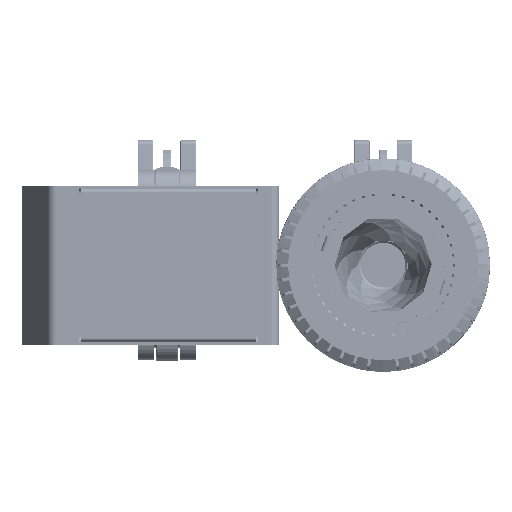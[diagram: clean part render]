
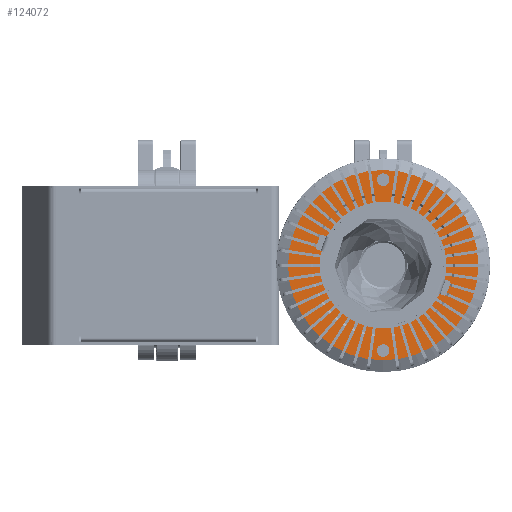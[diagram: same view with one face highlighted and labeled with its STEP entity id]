
A CAD part, front view. The second image highlights one B-rep face of the part: STEP entity #124072.
In plain terms, the highlighted planar face has unit normal (0, -1, 0).
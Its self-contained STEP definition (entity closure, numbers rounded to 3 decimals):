
#1374 = EDGE_CURVE ( 'NONE', #58688, #137906, #205114, .T. ) ;
#1507 = CIRCLE ( 'NONE', #140381, 3.25 ) ;
#1928 = AXIS2_PLACEMENT_3D ( 'NONE', #28497, #114393, #99090 ) ;
#3060 = ORIENTED_EDGE ( 'NONE', *, *, #198808, .F. ) ;
#3388 = CIRCLE ( 'NONE', #110991, 1.6 ) ;
#4268 = ORIENTED_EDGE ( 'NONE', *, *, #192367, .T. ) ;
#6264 = CARTESIAN_POINT ( 'NONE',  ( -49., 0., 0. ) ) ;
#7553 = EDGE_CURVE ( 'NONE', #112045, #144114, #195084, .T. ) ;
#10881 = CIRCLE ( 'NONE', #136027, 29. ) ;
#11144 = DIRECTION ( 'NONE',  ( 0., -1., 0. ) ) ;
#13386 = DIRECTION ( 'NONE',  ( 0., 1., 0. ) ) ;
#27253 = DIRECTION ( 'NONE',  ( 0., 1., 0. ) ) ;
#28370 = CARTESIAN_POINT ( 'NONE',  ( 29., 0., 0. ) ) ;
#28497 = CARTESIAN_POINT ( 'NONE',  ( -11.287, 0., -31.01 ) ) ;
#31287 = AXIS2_PLACEMENT_3D ( 'NONE', #94960, #13386, #146171 ) ;
#31659 = FACE_BOUND ( 'NONE', #98663, .T. ) ;
#35386 = EDGE_LOOP ( 'NONE', ( #3060, #152562 ) ) ;
#35486 = ORIENTED_EDGE ( 'NONE', *, *, #178430, .T. ) ;
#35947 = EDGE_CURVE ( 'NONE', #47336, #144993, #134571, .T. ) ;
#42824 = VERTEX_POINT ( 'NONE', #6264 ) ;
#43699 = CARTESIAN_POINT ( 'NONE',  ( 44., 0., 0. ) ) ;
#45076 = DIRECTION ( 'NONE',  ( 0., -1., 0. ) ) ;
#47336 = VERTEX_POINT ( 'NONE', #28370 ) ;
#48033 = FACE_BOUND ( 'NONE', #83451, .T. ) ;
#49243 = EDGE_CURVE ( 'NONE', #137906, #58688, #1507, .T. ) ;
#49771 = EDGE_LOOP ( 'NONE', ( #122647, #4268 ) ) ;
#55558 = DIRECTION ( 'NONE',  ( 0., -1., 0. ) ) ;
#56614 = DIRECTION ( 'NONE',  ( 1., 0., 0. ) ) ;
#56973 = ORIENTED_EDGE ( 'NONE', *, *, #71872, .F. ) ;
#58688 = VERTEX_POINT ( 'NONE', #64707 ) ;
#63595 = DIRECTION ( 'NONE',  ( 0., 0., 1. ) ) ;
#64707 = CARTESIAN_POINT ( 'NONE',  ( 44., 0., -3.25 ) ) ;
#67167 = CARTESIAN_POINT ( 'NONE',  ( 0., 0., 0. ) ) ;
#71872 = EDGE_CURVE ( 'NONE', #144993, #47336, #10881, .T. ) ;
#71943 = AXIS2_PLACEMENT_3D ( 'NONE', #128856, #210457, #63595 ) ;
#75601 = DIRECTION ( 'NONE',  ( 0., -1., 0. ) ) ;
#76611 = DIRECTION ( 'NONE',  ( 1., 0., 0. ) ) ;
#77548 = CARTESIAN_POINT ( 'NONE',  ( 0., 0., 0. ) ) ;
#78615 = DIRECTION ( 'NONE',  ( 0., -1., 0. ) ) ;
#82471 = CIRCLE ( 'NONE', #92839, 49. ) ;
#82756 = PLANE ( 'NONE',  #171048 ) ;
#83451 = EDGE_LOOP ( 'NONE', ( #199721, #162649 ) ) ;
#84332 = CARTESIAN_POINT ( 'NONE',  ( -9.687, 0., -31.01 ) ) ;
#87362 = AXIS2_PLACEMENT_3D ( 'NONE', #183785, #138002, #203270 ) ;
#91277 = CARTESIAN_POINT ( 'NONE',  ( -44., 0., 3.25 ) ) ;
#91689 = VERTEX_POINT ( 'NONE', #175220 ) ;
#92839 = AXIS2_PLACEMENT_3D ( 'NONE', #146911, #168291, #163199 ) ;
#94960 = CARTESIAN_POINT ( 'NONE',  ( 44., 0., 0. ) ) ;
#97943 = FACE_BOUND ( 'NONE', #49771, .T. ) ;
#98663 = EDGE_LOOP ( 'NONE', ( #56973, #145388 ) ) ;
#99090 = DIRECTION ( 'NONE',  ( 1., 0., 0. ) ) ;
#110991 = AXIS2_PLACEMENT_3D ( 'NONE', #210293, #11144, #175525 ) ;
#111336 = VERTEX_POINT ( 'NONE', #91277 ) ;
#112045 = VERTEX_POINT ( 'NONE', #207246 ) ;
#114309 = FACE_BOUND ( 'NONE', #119997, .T. ) ;
#114393 = DIRECTION ( 'NONE',  ( 0., -1., 0. ) ) ;
#119997 = EDGE_LOOP ( 'NONE', ( #168196, #139209 ) ) ;
#120343 = DIRECTION ( 'NONE',  ( 1., 0., 0. ) ) ;
#121303 = CARTESIAN_POINT ( 'NONE',  ( -29., 0., 0. ) ) ;
#122647 = ORIENTED_EDGE ( 'NONE', *, *, #150229, .T. ) ;
#124072 = ADVANCED_FACE ( 'NONE', ( #197031, #48033, #114309, #180756, #31659, #97943 ), #82756, .T. ) ;
#125642 = DIRECTION ( 'NONE',  ( 1., 0., 0. ) ) ;
#128856 = CARTESIAN_POINT ( 'NONE',  ( -44., 0., 0. ) ) ;
#130161 = EDGE_LOOP ( 'NONE', ( #35486, #144736 ) ) ;
#130964 = AXIS2_PLACEMENT_3D ( 'NONE', #77548, #78615, #144977 ) ;
#132476 = EDGE_CURVE ( 'NONE', #149376, #42824, #82471, .T. ) ;
#134571 = CIRCLE ( 'NONE', #130964, 29. ) ;
#136027 = AXIS2_PLACEMENT_3D ( 'NONE', #158204, #45076, #76611 ) ;
#137906 = VERTEX_POINT ( 'NONE', #188727 ) ;
#138002 = DIRECTION ( 'NONE',  ( 0., -1., 0. ) ) ;
#139209 = ORIENTED_EDGE ( 'NONE', *, *, #49243, .T. ) ;
#140381 = AXIS2_PLACEMENT_3D ( 'NONE', #43699, #27253, #161054 ) ;
#144114 = VERTEX_POINT ( 'NONE', #84332 ) ;
#144736 = ORIENTED_EDGE ( 'NONE', *, *, #132476, .T. ) ;
#144947 = CARTESIAN_POINT ( 'NONE',  ( 9.687, 0., 31.01 ) ) ;
#144977 = DIRECTION ( 'NONE',  ( 1., 0., 0. ) ) ;
#144993 = VERTEX_POINT ( 'NONE', #121303 ) ;
#145388 = ORIENTED_EDGE ( 'NONE', *, *, #35947, .F. ) ;
#146171 = DIRECTION ( 'NONE',  ( 0., 0., 1. ) ) ;
#146911 = CARTESIAN_POINT ( 'NONE',  ( 0., 0., 0. ) ) ;
#148244 = AXIS2_PLACEMENT_3D ( 'NONE', #67167, #200926, #120343 ) ;
#149376 = VERTEX_POINT ( 'NONE', #187745 ) ;
#150229 = EDGE_CURVE ( 'NONE', #91689, #111336, #172879, .T. ) ;
#150275 = AXIS2_PLACEMENT_3D ( 'NONE', #157175, #75601, #125642 ) ;
#152562 = ORIENTED_EDGE ( 'NONE', *, *, #162981, .F. ) ;
#157175 = CARTESIAN_POINT ( 'NONE',  ( 11.287, 0., 31.01 ) ) ;
#158204 = CARTESIAN_POINT ( 'NONE',  ( 0., 0., 0. ) ) ;
#161054 = DIRECTION ( 'NONE',  ( 0., 0., 1. ) ) ;
#162649 = ORIENTED_EDGE ( 'NONE', *, *, #213360, .F. ) ;
#162981 = EDGE_CURVE ( 'NONE', #177052, #167964, #3388, .T. ) ;
#163199 = DIRECTION ( 'NONE',  ( 1., 0., 0. ) ) ;
#165668 = CIRCLE ( 'NONE', #71943, 3.25 ) ;
#167964 = VERTEX_POINT ( 'NONE', #144947 ) ;
#168196 = ORIENTED_EDGE ( 'NONE', *, *, #1374, .T. ) ;
#168291 = DIRECTION ( 'NONE',  ( 0., -1., 0. ) ) ;
#171048 = AXIS2_PLACEMENT_3D ( 'NONE', #201349, #55558, #56614 ) ;
#172879 = CIRCLE ( 'NONE', #204252, 3.25 ) ;
#175220 = CARTESIAN_POINT ( 'NONE',  ( -44., 0., -3.25 ) ) ;
#175525 = DIRECTION ( 'NONE',  ( 1., 0., 0. ) ) ;
#177052 = VERTEX_POINT ( 'NONE', #196842 ) ;
#178430 = EDGE_CURVE ( 'NONE', #42824, #149376, #186562, .T. ) ;
#180756 = FACE_OUTER_BOUND ( 'NONE', #130161, .T. ) ;
#183785 = CARTESIAN_POINT ( 'NONE',  ( -11.287, 0., -31.01 ) ) ;
#186562 = CIRCLE ( 'NONE', #148244, 49. ) ;
#187745 = CARTESIAN_POINT ( 'NONE',  ( 49., 0., 0. ) ) ;
#188727 = CARTESIAN_POINT ( 'NONE',  ( 44., 0., 3.25 ) ) ;
#189644 = CIRCLE ( 'NONE', #1928, 1.6 ) ;
#190019 = DIRECTION ( 'NONE',  ( 0., 0., 1. ) ) ;
#191084 = CARTESIAN_POINT ( 'NONE',  ( -44., 0., 0. ) ) ;
#192160 = DIRECTION ( 'NONE',  ( 0., 1., 0. ) ) ;
#192367 = EDGE_CURVE ( 'NONE', #111336, #91689, #165668, .T. ) ;
#195084 = CIRCLE ( 'NONE', #87362, 1.6 ) ;
#196842 = CARTESIAN_POINT ( 'NONE',  ( 12.887, 0., 31.01 ) ) ;
#197031 = FACE_BOUND ( 'NONE', #35386, .T. ) ;
#198808 = EDGE_CURVE ( 'NONE', #167964, #177052, #205926, .T. ) ;
#199721 = ORIENTED_EDGE ( 'NONE', *, *, #7553, .F. ) ;
#200926 = DIRECTION ( 'NONE',  ( 0., -1., 0. ) ) ;
#201349 = CARTESIAN_POINT ( 'NONE',  ( 49., 0., 0. ) ) ;
#203270 = DIRECTION ( 'NONE',  ( 1., 0., 0. ) ) ;
#204252 = AXIS2_PLACEMENT_3D ( 'NONE', #191084, #192160, #190019 ) ;
#205114 = CIRCLE ( 'NONE', #31287, 3.25 ) ;
#205926 = CIRCLE ( 'NONE', #150275, 1.6 ) ;
#207246 = CARTESIAN_POINT ( 'NONE',  ( -12.887, 0., -31.01 ) ) ;
#210293 = CARTESIAN_POINT ( 'NONE',  ( 11.287, 0., 31.01 ) ) ;
#210457 = DIRECTION ( 'NONE',  ( 0., 1., 0. ) ) ;
#213360 = EDGE_CURVE ( 'NONE', #144114, #112045, #189644, .T. ) ;
